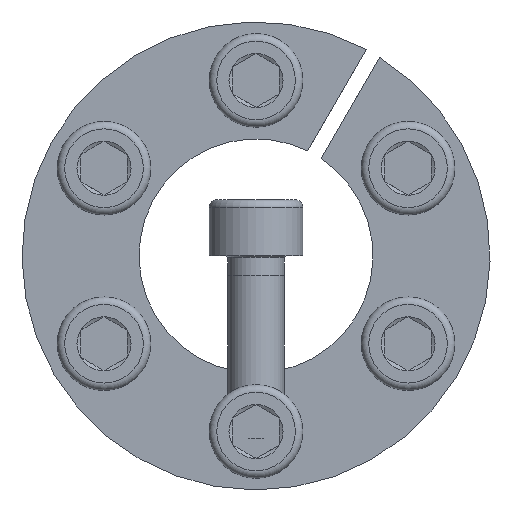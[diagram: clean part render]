
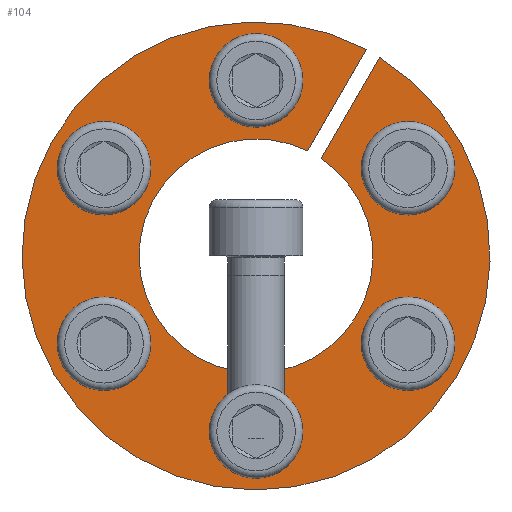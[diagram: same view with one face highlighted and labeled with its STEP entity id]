
A CAD part, front view. The second image highlights one B-rep face of the part: STEP entity #104.
In plain terms, the highlighted planar face has unit normal (0, -1, 0).
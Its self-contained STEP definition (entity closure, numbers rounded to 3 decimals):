
#104 = ADVANCED_FACE( '', ( #217, #218, #219, #220, #221, #222, #223 ), #224, .F. );
#217 = FACE_BOUND( '', #351, .T. );
#218 = FACE_BOUND( '', #352, .T. );
#219 = FACE_BOUND( '', #353, .T. );
#220 = FACE_OUTER_BOUND( '', #354, .T. );
#221 = FACE_BOUND( '', #355, .T. );
#222 = FACE_BOUND( '', #356, .T. );
#223 = FACE_BOUND( '', #357, .T. );
#224 = PLANE( '', #358 );
#351 = EDGE_LOOP( '', ( #580 ) );
#352 = EDGE_LOOP( '', ( #581 ) );
#353 = EDGE_LOOP( '', ( #582 ) );
#354 = EDGE_LOOP( '', ( #583, #584, #585, #586 ) );
#355 = EDGE_LOOP( '', ( #587 ) );
#356 = EDGE_LOOP( '', ( #588 ) );
#357 = EDGE_LOOP( '', ( #589 ) );
#358 = AXIS2_PLACEMENT_3D( '', #590, #591, #592 );
#580 = ORIENTED_EDGE( '', *, *, #720, .T. );
#581 = ORIENTED_EDGE( '', *, *, #746, .T. );
#582 = ORIENTED_EDGE( '', *, *, #735, .T. );
#583 = ORIENTED_EDGE( '', *, *, #754, .F. );
#584 = ORIENTED_EDGE( '', *, *, #759, .F. );
#585 = ORIENTED_EDGE( '', *, *, #711, .T. );
#586 = ORIENTED_EDGE( '', *, *, #764, .F. );
#587 = ORIENTED_EDGE( '', *, *, #743, .T. );
#588 = ORIENTED_EDGE( '', *, *, #723, .T. );
#589 = ORIENTED_EDGE( '', *, *, #717, .T. );
#590 = CARTESIAN_POINT( '', ( 0., 0., 25. ) );
#591 = DIRECTION( '', ( 0., 1., 0. ) );
#592 = DIRECTION( '', ( 0., 0., 1. ) );
#711 = EDGE_CURVE( '', #860, #861, #862, .T. );
#717 = EDGE_CURVE( '', #871, #871, #872, .T. );
#720 = EDGE_CURVE( '', #876, #876, #877, .T. );
#723 = EDGE_CURVE( '', #881, #881, #882, .T. );
#735 = EDGE_CURVE( '', #901, #901, #902, .T. );
#743 = EDGE_CURVE( '', #915, #915, #916, .T. );
#746 = EDGE_CURVE( '', #920, #920, #921, .T. );
#754 = EDGE_CURVE( '', #932, #934, #935, .T. );
#759 = EDGE_CURVE( '', #860, #932, #940, .T. );
#764 = EDGE_CURVE( '', #934, #861, #946, .T. );
#860 = VERTEX_POINT( '', #1133 );
#861 = VERTEX_POINT( '', #1134 );
#862 = CIRCLE( '', #1135, 25. );
#871 = VERTEX_POINT( '', #1146 );
#872 = CIRCLE( '', #1147, 3. );
#876 = VERTEX_POINT( '', #1151 );
#877 = CIRCLE( '', #1152, 3. );
#881 = VERTEX_POINT( '', #1156 );
#882 = CIRCLE( '', #1157, 3. );
#901 = VERTEX_POINT( '', #1178 );
#902 = CIRCLE( '', #1179, 3. );
#915 = VERTEX_POINT( '', #1198 );
#916 = CIRCLE( '', #1199, 3. );
#920 = VERTEX_POINT( '', #1203 );
#921 = CIRCLE( '', #1204, 3. );
#932 = VERTEX_POINT( '', #1217 );
#934 = VERTEX_POINT( '', #1220 );
#935 = CIRCLE( '', #1221, 12.5 );
#940 = LINE( '', #1229, #1230 );
#946 = LINE( '', #1237, #1238 );
#1133 = CARTESIAN_POINT( '', ( 11.783, 0., 22.049 ) );
#1134 = CARTESIAN_POINT( '', ( 13.203, 0., 21.229 ) );
#1135 = AXIS2_PLACEMENT_3D( '', #1311, #1312, #1313 );
#1146 = CARTESIAN_POINT( '', ( -14.738, 0., 11.973 ) );
#1147 = AXIS2_PLACEMENT_3D( '', #1322, #1323, #1324 );
#1151 = CARTESIAN_POINT( '', ( -17.738, 0., -6.777 ) );
#1152 = AXIS2_PLACEMENT_3D( '', #1328, #1329, #1330 );
#1156 = CARTESIAN_POINT( '', ( -3., 0., -18.75 ) );
#1157 = AXIS2_PLACEMENT_3D( '', #1334, #1335, #1336 );
#1178 = CARTESIAN_POINT( '', ( 3., 0., 18.75 ) );
#1179 = AXIS2_PLACEMENT_3D( '', #1357, #1358, #1359 );
#1198 = CARTESIAN_POINT( '', ( 17.738, 0., 6.777 ) );
#1199 = AXIS2_PLACEMENT_3D( '', #1369, #1370, #1371 );
#1203 = CARTESIAN_POINT( '', ( 14.738, 0., -11.973 ) );
#1204 = AXIS2_PLACEMENT_3D( '', #1375, #1376, #1377 );
#1217 = CARTESIAN_POINT( '', ( 5.527, 0., 11.212 ) );
#1220 = CARTESIAN_POINT( '', ( 6.946, 0., 10.392 ) );
#1221 = AXIS2_PLACEMENT_3D( '', #1387, #1388, #1389 );
#1229 = CARTESIAN_POINT( '', ( 11.79, 0., 22.06 ) );
#1230 = VECTOR( '', #1393, 1000. );
#1237 = CARTESIAN_POINT( '', ( 6.946, 0., 10.392 ) );
#1238 = VECTOR( '', #1398, 1000. );
#1311 = CARTESIAN_POINT( '', ( 0., 0., 0. ) );
#1312 = DIRECTION( '', ( 0., -1., 0. ) );
#1313 = DIRECTION( '', ( 0., 0., -1. ) );
#1322 = CARTESIAN_POINT( '', ( -16.238, 0., 9.375 ) );
#1323 = DIRECTION( '', ( 0., 1., 0. ) );
#1324 = DIRECTION( '', ( 0.5, 0., 0.866 ) );
#1328 = CARTESIAN_POINT( '', ( -16.238, 0., -9.375 ) );
#1329 = DIRECTION( '', ( 0., 1., 0. ) );
#1330 = DIRECTION( '', ( -0.5, 0., 0.866 ) );
#1334 = CARTESIAN_POINT( '', ( 0., 0., -18.75 ) );
#1335 = DIRECTION( '', ( 0., 1., 0. ) );
#1336 = DIRECTION( '', ( -1., 0., 0. ) );
#1357 = CARTESIAN_POINT( '', ( 0., 0., 18.75 ) );
#1358 = DIRECTION( '', ( 0., 1., 0. ) );
#1359 = DIRECTION( '', ( 1., 0., 0. ) );
#1369 = CARTESIAN_POINT( '', ( 16.238, 0., 9.375 ) );
#1370 = DIRECTION( '', ( 0., 1., 0. ) );
#1371 = DIRECTION( '', ( 0.5, 0., -0.866 ) );
#1375 = CARTESIAN_POINT( '', ( 16.238, 0., -9.375 ) );
#1376 = DIRECTION( '', ( 0., 1., 0. ) );
#1377 = DIRECTION( '', ( -0.5, 0., -0.866 ) );
#1387 = CARTESIAN_POINT( '', ( 0., 0., 0. ) );
#1388 = DIRECTION( '', ( 0., -1., 0. ) );
#1389 = DIRECTION( '', ( 0., 0., -1. ) );
#1393 = DIRECTION( '', ( -0.5, 0., -0.866 ) );
#1398 = DIRECTION( '', ( 0.5, 0., 0.866 ) );
